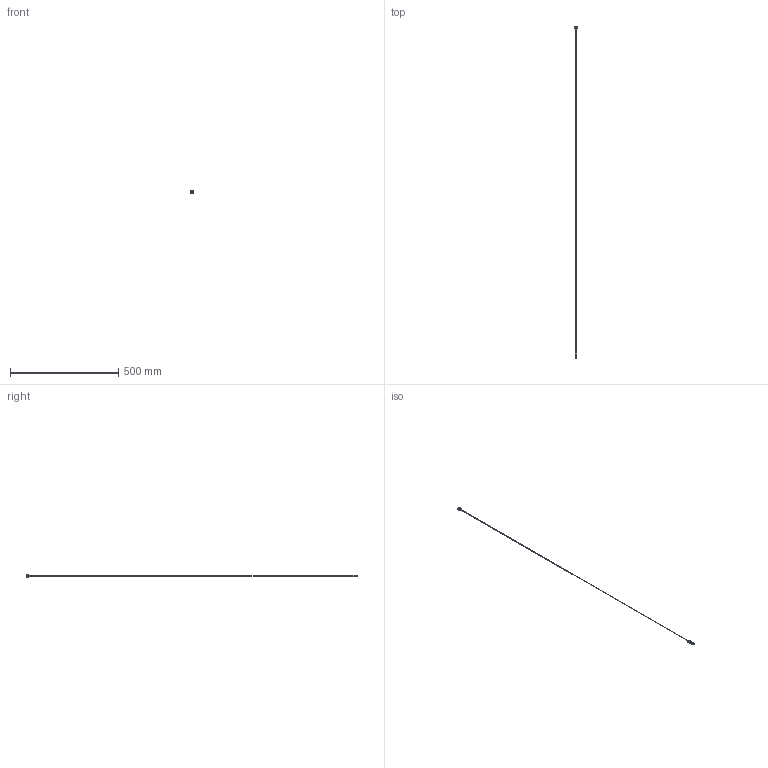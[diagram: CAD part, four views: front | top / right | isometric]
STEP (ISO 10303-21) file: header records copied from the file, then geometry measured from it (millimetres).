
FILE_DESCRIPTION((''),'2;1');
FILE_NAME('003578', '2025-07-30T09:10:44', (''), (''), 'ImageToStl.com STEP Converter','', '');
FILE_SCHEMA(('AUTOMOTIVE_DESIGN_CC2'));
Length unit declared in the file: metre
Products named in the file (1): product0
Bounding box: 15 x 1535 x 15 mm (x, y, z)
Surface area: 10722.3 mm2 (no closed solid volume)
Topology: 0 solids, 4224 shells, 4224 faces, 12672 edges, 2112 vertices
Faces by surface type: plane 4224
Entity records: 97180 total; most frequent: DIRECTION 21122, ORIENTED_EDGE 12672, EDGE_CURVE 12672, LINE 12672, VECTOR 12672, AXIS2_PLACEMENT_3D 4225, FACE_SURFACE 4224, PLANE 4224
